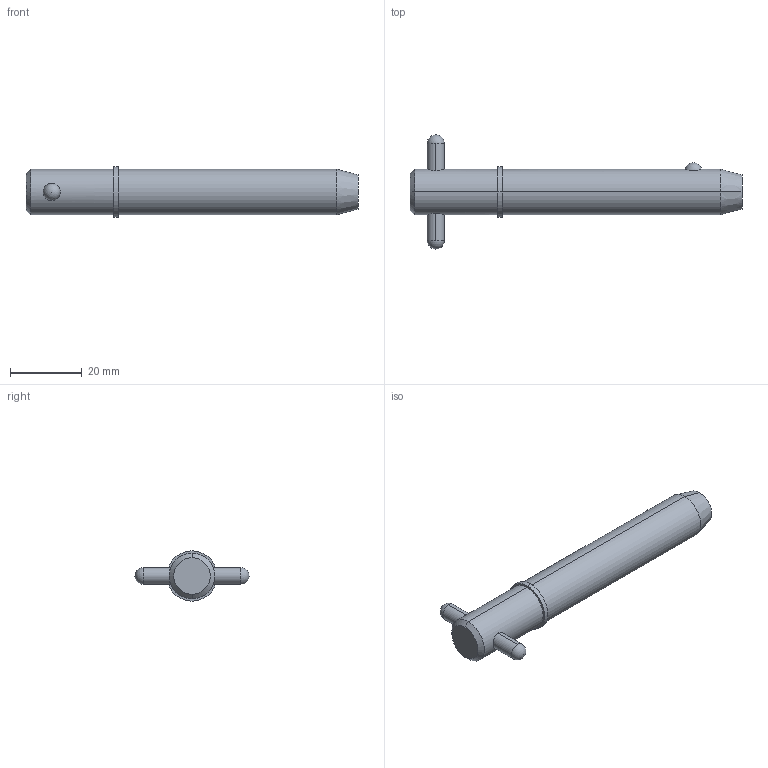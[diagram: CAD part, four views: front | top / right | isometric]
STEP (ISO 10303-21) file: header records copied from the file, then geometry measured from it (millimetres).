
FILE_DESCRIPTION (( 'STEP AP203' ), '1' );
FILE_NAME ('33018.W5020.step', '2024-11-19T17:14:49', ( '' ), ( '' ), 'SwSTEP 2.0', 'SolidWorks 2019', '' );
FILE_SCHEMA (( 'CONFIG_CONTROL_DESIGN' ));
Length unit declared in the file: millimetre
Products named in the file (3): Part1_33018.W5020; 33018.W5020; Part2_33018.W5020
Assembly tree (2 placements, depth 2):
  33018.W5020
    Part1_33018.W5020
    Part2_33018.W5020
Bounding box: 92.38 x 31.75 x 13.97 mm (x, y, z)
Volume: 11869.1 mm3; surface area: 4522 mm2
Topology: 2 solids, 2 shells, 22 faces, 47 edges, 30 vertices
Faces by surface type: cylinder 10, sphere 4, cone 4, plane 4
Entity records: 1043 total; most frequent: CARTESIAN_POINT 286, DIRECTION 110, ORIENTED_EDGE 82, AXIS2_PLACEMENT_3D 48, EDGE_CURVE 41, EDGE_LOOP 27, PERSON_AND_ORGANIZATION 26, VERTEX_POINT 26
